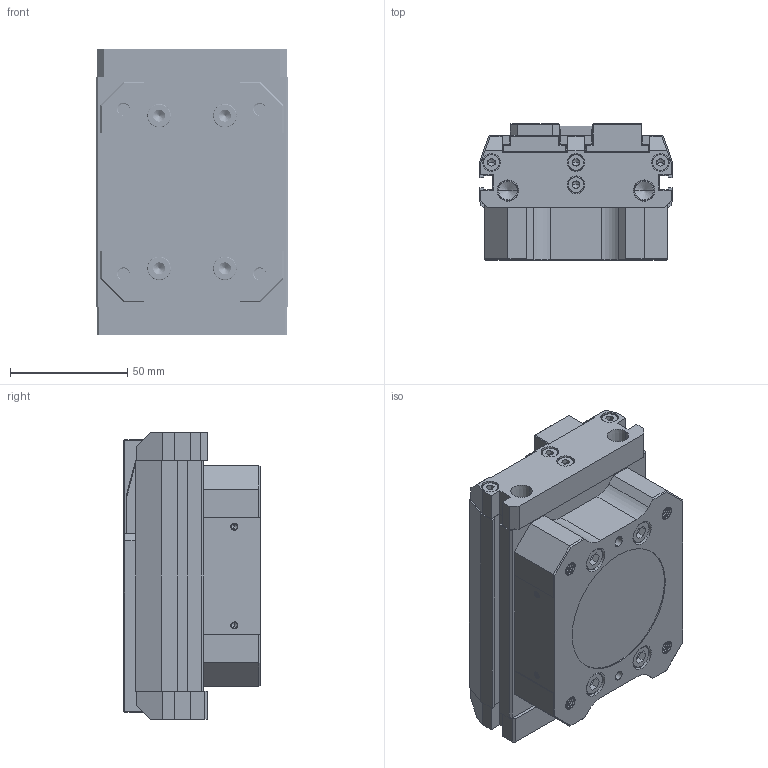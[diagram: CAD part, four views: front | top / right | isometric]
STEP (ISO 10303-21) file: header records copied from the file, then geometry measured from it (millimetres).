
FILE_DESCRIPTION (( 'STEP AP203' ), '1' );
FILE_NAME ('CHPS360-40.STEP', '2026-01-16T00:33:10', ( '' ), ( '' ), 'SwSTEP 2.0', 'SolidWorks 2024', '' );
FILE_SCHEMA (( 'CONFIG_CONTROL_DESIGN' ));
Length unit declared in the file: millimetre
Products named in the file (12): CHPS360-40_FINGER_ASM; CHPS360-006; CHPS360-40; CHPS360-40-001; CHPS360-002; CHPS360-40-005; CHPS360-003; hexagon socket head cap screw_1_JIS B 1176 M6 x 25 (25) --N; hexagon socket head cap screw_jis_JIS B 1176 M4 x 12 (12) --N; hexagon socket head cap screw_1_JIS B 1176 M4 x 12 (12) --N; CHPS360-40_BODY_ASM; CHPS360-004
Assembly tree (23 placements, depth 3):
  CHPS360-40
    CHPS360-40_BODY_ASM
      CHPS360-004
      CHPS360-40-001
      CHPS360-003
      CHPS360-002
      hexagon socket head cap screw_1_JIS B 1176 M6 x 25 (25) --N  x4
      hexagon socket head cap screw_1_JIS B 1176 M4 x 12 (12) --N  x8
    CHPS360-40_FINGER_ASM  x2
      CHPS360-40-005
      CHPS360-006
      hexagon socket head cap screw_jis_JIS B 1176 M4 x 12 (12) --N
Bounding box: 82 x 58 x 122 mm (x, y, z)
Volume: 439694.9 mm3; surface area: 101739.4 mm2
Topology: 24 solids, 24 shells, 1362 faces, 3425 edges, 2138 vertices
Faces by surface type: plane 601, cylinder 539, cone 112, torus 68, bspline 42
Entity records: 43942 total; most frequent: CARTESIAN_POINT 24648, ORIENTED_EDGE 4072, DIRECTION 3302, EDGE_CURVE 2036, VERTEX_POINT 1311, VECTOR 1140, LINE 1140, AXIS2_PLACEMENT_3D 1081
